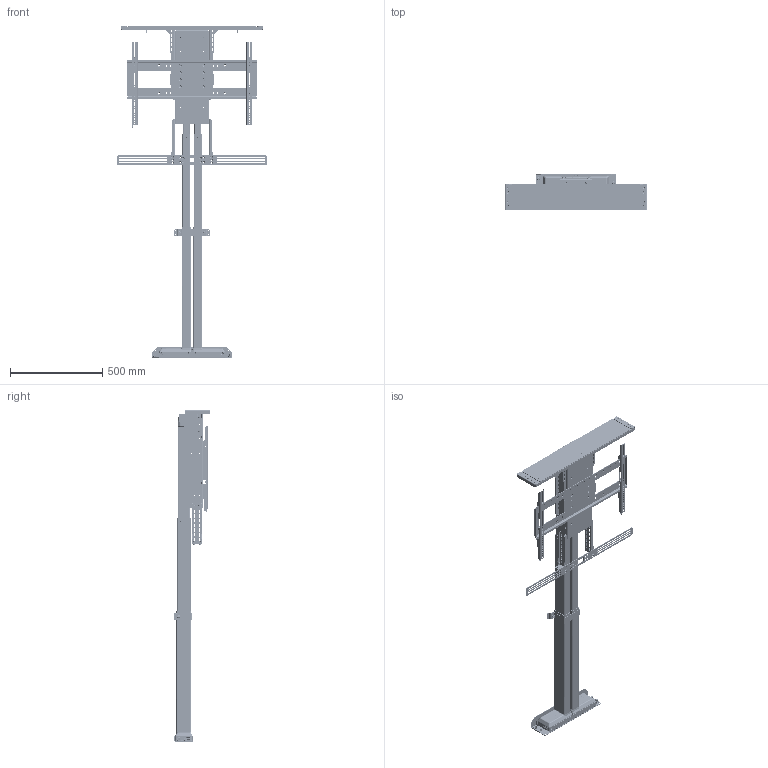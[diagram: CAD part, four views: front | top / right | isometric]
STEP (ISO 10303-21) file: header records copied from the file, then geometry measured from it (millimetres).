
FILE_DESCRIPTION(/* description */ ('STEP AP242','CAx-IF Rec.Pracs.---Representation and Presentation of Product Manufacturing Information (PMI)---4.0---2014-10-13','CAx-IF Rec.Pracs.---3D Tessellated Geometry---0.4---2014-09-14','2;1'),/* implementation_level */ '2;1');
FILE_NAME(/* name */ '65523bba9b98ac61b84e0bb8',/* time_stamp */ '2023-11-13T15:07:43Z',/* author */ (''),/* organization */ (''),/* preprocessor_version */ 'ST-DEVELOPER v19.4',/* originating_system */ ' ',/* authorisation */ ' ');
FILE_SCHEMA (('AP242_MANAGED_MODEL_BASED_3D_ENGINEERING_MIM_LF { 1 0 10303 442 1 1 4 }'));
Products named in the file (91): DL-65s (HD); Socket button head screw M6x1 x 12; ULS-NX-029 - HD Column Clamp; Hex socket countersunk head screw M6x1 x 12; WDS8151-215; Socket button head screw M6x1 x 16; L65 PS Adapter; ULS-NX-032 - HD Quick Release LC Mount; L-65x SBM Bracket; Lift Column H <2>; L45 LC Inner Profile; L45 LC Motor Housing; L45 LC Middle Profile; ULS-NX-033 - HD LOWER ACCESSORY BRACKET w/ PEMS <1>; PEM CLS-M6-1  ; ULS-NX-033 - HD LOWER ACCESSORY BRACKET; ULS-NX-033 - HD LOWER ACCESSORY BRACKET w/ PEMS <2>; Lift Column H <1>; SBP & VMB <1>; ULS-NX-017 - UL SCREEN BACK PLATE; PZ Pan head screw M5x0.80 x 25; ULS-NX-118 - UL VMB WELDMENT <1>; VMB Washer; 90107A012; PEM BSO-632-10  ZI; ULS-NX-020 - UL SCREEN LOCK; ULS-NX-019 - UL LEVEL ADJUSTMENT PLATE; Socket button head cap screw #6-32 x 0.188; ULS-NX-018 - UL VERICAL MOUNTING BAR; ULS-NX-118 - UL VMB WELDMENT <2>; ULS-NX-030 - HD REAR SUPPORT w/ PEMs <1>; PEM FHS-M6-12  ; ULS-NX-030 - HD Rear Support; ULS-NX-031 - HD QUICK RELEASE BASE MOUNT w/ PEMS <1>; ULS-NX-031 - HD QUICK RELEASE BASE MOUNT; L-65 HD Lid Plate Assembly w/ Lid Supports <1>; ULS-NX-039 - ULS HD LID SUPPORT w/ PEMs <1>; PEM CLS-M6-00  ; ULS-NX-039 -- ULS HD LID SUPPORT; ULS-NX-039 - ULS HD LID SUPPORT w/ PEMs <2>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
Assembly tree (267 placements, depth 5):
  DL-65s (HD)
    Socket button head screw M6x1 x 12  x12
    ULS-NX-029 - HD Column Clamp
    Hex socket countersunk head screw M6x1 x 12  x17
    WDS8151-215  x6
    Socket button head screw M6x1 x 16  x4
    Hex socket countersunk head screw M6x1 x 12  x2
    L65 PS Adapter
    ULS-NX-032 - HD Quick Release LC Mount
    L-65x SBM Bracket
    Lift Column H <2>
      L45 LC Inner Profile
      L45 LC Motor Housing
      L45 LC Middle Profile
    ULS-NX-033 - HD LOWER ACCESSORY BRACKET w/ PEMS <1>
      PEM CLS-M6-1    x4
      ULS-NX-033 - HD LOWER ACCESSORY BRACKET
    ULS-NX-033 - HD LOWER ACCESSORY BRACKET w/ PEMS <2>
      PEM CLS-M6-1    x4
      ULS-NX-033 - HD LOWER ACCESSORY BRACKET
    Lift Column H <1>
      L45 LC Middle Profile
      L45 LC Motor Housing
      L45 LC Inner Profile
    SBP & VMB <1>
      ULS-NX-017 - UL SCREEN BACK PLATE
      PZ Pan head screw M5x0.80 x 25  x2
      ULS-NX-118 - UL VMB WELDMENT <1>
        VMB Washer  x4
        90107A012  x2
        PEM BSO-632-10  ZI  x2
        ULS-NX-020 - UL SCREEN LOCK
        ULS-NX-019 - UL LEVEL ADJUSTMENT PLATE
        Socket button head cap screw #6-32 x 0.188  x2
        ULS-NX-018 - UL VERICAL MOUNTING BAR
      ULS-NX-118 - UL VMB WELDMENT <2>
        PEM BSO-632-10  ZI  x2
        ULS-NX-019 - UL LEVEL ADJUSTMENT PLATE
        VMB Washer  x4
        Socket button head cap screw #6-32 x 0.188  x2
        90107A012  x2
        ULS-NX-020 - UL SCREEN LOCK
        ULS-NX-018 - UL VERICAL MOUNTING BAR
    ULS-NX-030 - HD REAR SUPPORT w/ PEMs <1>
      PEM FHS-M6-12    x2
      ULS-NX-030 - HD Rear Support
    ULS-NX-031 - HD QUICK RELEASE BASE MOUNT w/ PEMS <1>
      PEM FHS-M6-12    x4
      ULS-NX-031 - HD QUICK RELEASE BASE MOUNT
    L-65 HD Lid Plate Assembly w/ Lid Supports <1>
      Hex socket countersunk head screw M6x1 x 12  x4
      ULS-NX-039 - ULS HD LID SUPPORT w/ PEMs <1>
        PEM CLS-M6-00    x2
        ULS-NX-039 -- ULS HD LID SUPPORT
      ULS-NX-039 - ULS HD LID SUPPORT w/ PEMs <2>
        PEM CLS-M6-00    x2
        ULS-NX-039 -- ULS HD LID SUPPORT
      L-65 HD Lid Plate Assembly w/ Lid Adapter <1>
        PEM FH-M6-18  ZI  x4
        PEM S-M6-1  ZI  x6
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Bounding box: 812.8 x 198.85 x 1797.61 mm (x, y, z)
Volume: 17377768.4 mm3; surface area: 3286933.9 mm2
Topology: 249 solids, 249 shells, 13788 faces, 36002 edges, 23217 vertices
Faces by surface type: plane 8396, cylinder 3219, cone 1084, bspline 691, torus 336, sphere 62
Full cylindrical faces by diameter (mm): 1.194 x2, 1.208 x1, 1.473 x3, 1.552 x1, 1.575 x2, 1.6 x2, 1.956 x8, 2.235 x1, 2.642 x4, 2.794 x1, 3.048 x2, 3.175 x1, 3.505 x7, 3.683 x1, 4 x8, 4.496 x6, 4.6 x4, 4.75 x1, 4.917 x64, 5 x46, 5.026 x4, 5.08 x4, 5.277 x8, 5.3 x12, 5.385 x12, 5.41 x8, 5.6 x8, 5.944 x4, 5.994 x4, 6 x103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
Entity records: 151819 total; most frequent: CARTESIAN_POINT 38327, DIRECTION 22195, ORIENTED_EDGE 21414, EDGE_CURVE 10707, AXIS2_PLACEMENT_3D 7953, VERTEX_POINT 7224, LINE 6289, VECTOR 6289
